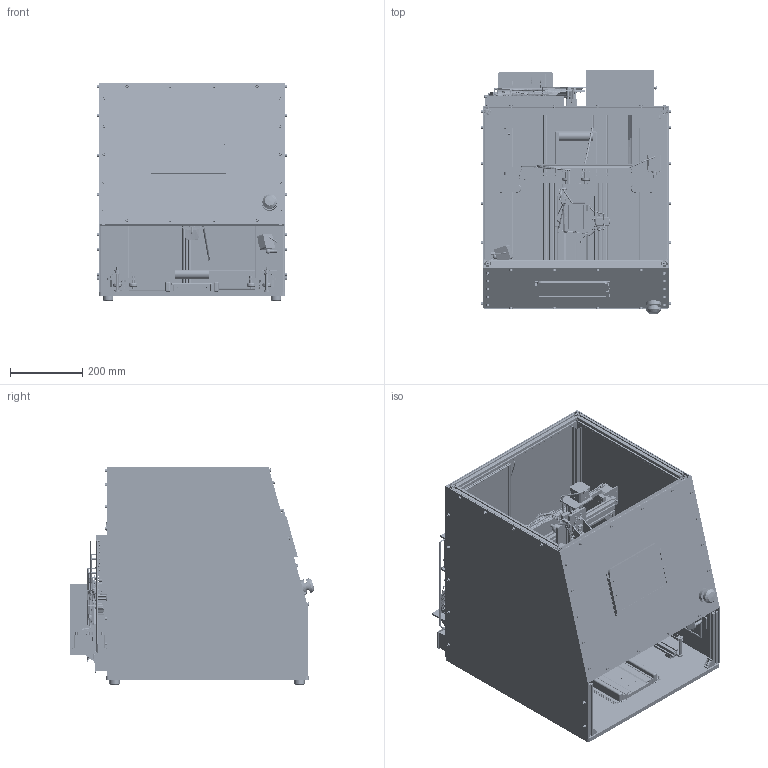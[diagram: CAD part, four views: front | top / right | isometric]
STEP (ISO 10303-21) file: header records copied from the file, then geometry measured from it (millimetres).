
FILE_DESCRIPTION(('Open CASCADE Model'),'2;1');
FILE_NAME('Open CASCADE Shape Model','2026-11-26T01:08:31',('Author'),( 'Open CASCADE'),'Open CASCADE STEP processor 7.9','Open CASCADE 7.9' ,'Unknown');
FILE_SCHEMA(('AUTOMOTIVE_DESIGN { 1 0 10303 214 1 1 1 1 }'));
Length unit declared in the file: millimetre
Products named in the file (434): UltraVena_rig_vscan; wiring; wire_inlet_to_psu; wire_psu_to_fuse_block; wire_fuse_to_12V_converter; wire_fuse_to_5V_converter; wire_12V_to_jetson; wire_servo_converter_to_bus_adapter; wire_hub_to_servo_bus_adapter; wire_5V_to_usb_hub; wire_jetson_to_usb_hub; wire_hub_to_teensy; wire_hub_to_motion_controller; wire_jetson_to_light_box_camera; wire_fuse_to_estop; wire_estop_to_relay_coil; wire_fuse_to_relay_contact; wire_relay_to_motion_bus; wire_estop_bus_to_servo_converter; wire_estop_bus_to_motion_controller; wire_hub_to_webcam_overhead; wire_hub_to_webcam_side; wire_12V_to_led_strips; wire_led_jumper_back_to_left; wire_led_jumper_back_to_right; wire_led_jumper_left_to_front; wire_controller_to_y_stepper_left; wire_controller_to_y_stepper_right; wire_controller_to_limit_switch_y; wire_teensy_to_pressure_pad_1; wire_teensy_to_pressure_pad_2; wire_teensy_to_pressure_pad_3; wire_teensy_to_pressure_pad_4; wire_teensy_to_pressure_pad_5; wire_teensy_to_pressure_pad_6; wire_controller_to_x_stepper; wire_controller_to_limit_switch_x; wire_controller_to_z_stepper; wire_controller_to_limit_switch_z; wire_teensy_to_head_board_serial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
Assembly tree (619 placements, depth 10):
  UltraVena_rig_vscan
    wiring
      wire_inlet_to_psu
      wire_psu_to_fuse_block
      wire_fuse_to_12V_converter
      wire_fuse_to_5V_converter
      wire_12V_to_jetson
      wire_servo_converter_to_bus_adapter
      wire_hub_to_servo_bus_adapter
      wire_5V_to_usb_hub
      wire_jetson_to_usb_hub
      wire_hub_to_teensy
      wire_hub_to_motion_controller
      wire_jetson_to_light_box_camera
      wire_fuse_to_estop
      wire_estop_to_relay_coil
      wire_fuse_to_relay_contact
      wire_relay_to_motion_bus
      wire_estop_bus_to_servo_converter
      wire_estop_bus_to_motion_controller
      wire_hub_to_webcam_overhead
      wire_hub_to_webcam_side
      wire_12V_to_led_strips
      wire_led_jumper_back_to_left
      wire_led_jumper_back_to_right
      wire_led_jumper_left_to_front
      wire_controller_to_y_stepper_left
      wire_controller_to_y_stepper_right
      wire_controller_to_limit_switch_y
      wire_teensy_to_pressure_pad_1
      wire_teensy_to_pressure_pad_2
      wire_teensy_to_pressure_pad_3
      wire_teensy_to_pressure_pad_4
      wire_teensy_to_pressure_pad_5
      wire_teensy_to_pressure_pad_6
      wire_controller_to_x_stepper
      wire_controller_to_limit_switch_x
      wire_controller_to_z_stepper
      wire_controller_to_limit_switch_z
      wire_teensy_to_head_board_serial
      wire_5V_to_head_board
      wire_head_board_to_load_cell_amp
      wire_load_cell_to_amp
      wire_teensy_to_overtravel_switch
      wire_servo_bus_adapter_to_yaw_servo
      wire_servo_bus_yaw_to_pitch
      wire_servo_bus_pitch_to_roll
      wire_head_board_to_tilt_sensor
      wire_tilt_sensor_to_distance_sensors
      wire_distance_sensor_chain_back
      wire_distance_sensor_chain_front
      wire_head_board_to_marker_servo
      wire_probe_cable_to_display
    electronics_bay
      psu_24V_350W
        psu_24V_350W__case
        psu_24V_350W__internals
        psu_24V_350W__terminal_block
        psu_24V_350W__terminal_screws
      fuse_block
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Bounding box: 526 x 676.93 x 604 mm (x, y, z)
Volume: 13221741.9 mm3; surface area: 6086426 mm2
Topology: 2758 solids, 2758 shells, 11487 faces, 19710 edges, 12942 vertices
Faces by surface type: plane 7725, cylinder 2564, sphere 1136, bspline 31, cone 31
Full cylindrical faces by diameter (mm): 2 x525, 2.2 x68, 2.4 x119, 2.5 x16, 2.6 x41, 2.8 x16, 3 x202, 3.2 x14, 3.4 x60, 3.5 x10, 3.6 x63, 3.8 x110, 4 x146, 4.2 x40, 4.4 x27, 4.8 x10, 5 x104, 5.1 x42, 5.2 x141, 5.4 x110, 6 x44, 6.2 x10, 6.4 x2, 6.8 x2, 7 x2, 7.2 x1, 7.8 x2, 8 x50, 8.5 x90, 10 x40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
Entity records: 536222 total; most frequent: CARTESIAN_POINT 178573, DIRECTION 68283, LINE 31510, VECTOR 31510, ORIENTED_EDGE 28794, PCURVE 28794, DEFINITIONAL_REPRESENTATION 28794, AXIS2_PLACEMENT_3D 16233
